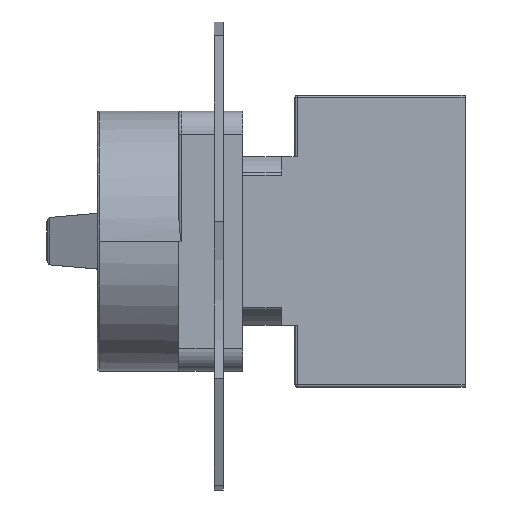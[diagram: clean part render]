
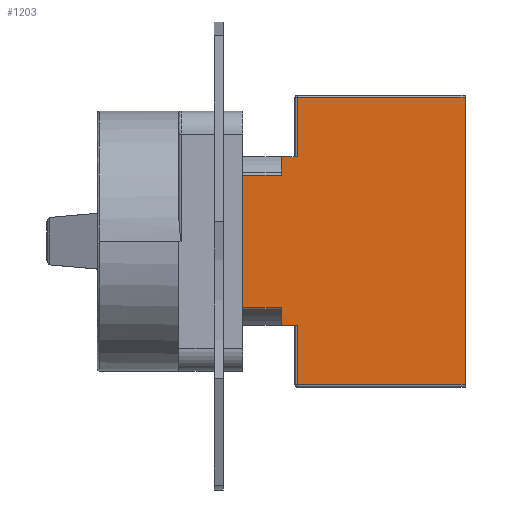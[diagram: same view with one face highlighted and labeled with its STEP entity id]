
A CAD part, left-side view. The second image highlights one B-rep face of the part: STEP entity #1203.
In plain terms, the highlighted planar face has unit normal (-1, 0, 0).
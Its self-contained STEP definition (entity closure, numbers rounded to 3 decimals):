
#200 = LINE ( 'NONE', #5899, #1472 ) ;
#263 = ORIENTED_EDGE ( 'NONE', *, *, #4396, .T. ) ;
#421 = DIRECTION ( 'NONE',  ( 0., 0., -1. ) ) ;
#485 = CARTESIAN_POINT ( 'NONE',  ( -24., 36.8, 0. ) ) ;
#789 = LINE ( 'NONE', #2984, #2844 ) ;
#853 = VECTOR ( 'NONE', #4234, 1000. ) ;
#899 = DIRECTION ( 'NONE',  ( 0., 0., -1. ) ) ;
#929 = CARTESIAN_POINT ( 'NONE',  ( -24., 40.3, 0. ) ) ;
#981 = CARTESIAN_POINT ( 'NONE',  ( -24., 36.8, 0. ) ) ;
#1169 = CARTESIAN_POINT ( 'NONE',  ( -24., 36.8, -18.5 ) ) ;
#1171 = VERTEX_POINT ( 'NONE', #1789 ) ;
#1187 = CARTESIAN_POINT ( 'NONE',  ( -24., 0., 31.5 ) ) ;
#1203 = ADVANCED_FACE ( 'NONE', ( #1478 ), #1685, .T. ) ;
#1257 = VERTEX_POINT ( 'NONE', #1187 ) ;
#1314 = LINE ( 'NONE', #485, #3484 ) ;
#1336 = AXIS2_PLACEMENT_3D ( 'NONE', #1680, #4373, #3976 ) ;
#1378 = CARTESIAN_POINT ( 'NONE',  ( -24., 40.3, -18.5 ) ) ;
#1408 = EDGE_CURVE ( 'NONE', #5795, #4370, #1314, .T. ) ;
#1464 = ORIENTED_EDGE ( 'NONE', *, *, #3839, .T. ) ;
#1472 = VECTOR ( 'NONE', #5671, 1000. ) ;
#1478 = FACE_OUTER_BOUND ( 'NONE', #5173, .T. ) ;
#1505 = CARTESIAN_POINT ( 'NONE',  ( -24., 36.8, 18.5 ) ) ;
#1645 = ORIENTED_EDGE ( 'NONE', *, *, #1408, .T. ) ;
#1680 = CARTESIAN_POINT ( 'NONE',  ( -24., 23.024, 0. ) ) ;
#1685 = PLANE ( 'NONE',  #1336 ) ;
#1698 = DIRECTION ( 'NONE',  ( 0., -1., 0. ) ) ;
#1752 = CARTESIAN_POINT ( 'NONE',  ( -24., 23.024, -31.5 ) ) ;
#1763 = EDGE_CURVE ( 'NONE', #2310, #3020, #5042, .T. ) ;
#1789 = CARTESIAN_POINT ( 'NONE',  ( -24., 0., -31.5 ) ) ;
#2006 = EDGE_CURVE ( 'NONE', #3020, #3016, #5576, .T. ) ;
#2008 = VECTOR ( 'NONE', #6217, 1000. ) ;
#2144 = DIRECTION ( 'NONE',  ( 0., 1., 0. ) ) ;
#2185 = EDGE_CURVE ( 'NONE', #5795, #2427, #789, .T. ) ;
#2197 = CARTESIAN_POINT ( 'NONE',  ( -24., 40.3, 14.5 ) ) ;
#2264 = VECTOR ( 'NONE', #2144, 1000. ) ;
#2267 = LINE ( 'NONE', #6320, #5833 ) ;
#2310 = VERTEX_POINT ( 'NONE', #2197 ) ;
#2344 = CARTESIAN_POINT ( 'NONE',  ( -24., 23.024, 31.5 ) ) ;
#2372 = CARTESIAN_POINT ( 'NONE',  ( -24., 36.8, 31.5 ) ) ;
#2418 = CARTESIAN_POINT ( 'NONE',  ( -24., 40.3, 0. ) ) ;
#2427 = VERTEX_POINT ( 'NONE', #1378 ) ;
#2502 = DIRECTION ( 'NONE',  ( 0., 0., -1. ) ) ;
#2509 = VECTOR ( 'NONE', #5208, 1000. ) ;
#2612 = CARTESIAN_POINT ( 'NONE',  ( -24., 40.3, -14.5 ) ) ;
#2624 = ORIENTED_EDGE ( 'NONE', *, *, #3927, .T. ) ;
#2804 = DIRECTION ( 'NONE',  ( 0., 0., 1. ) ) ;
#2808 = CARTESIAN_POINT ( 'NONE',  ( -24., 0., 0. ) ) ;
#2844 = VECTOR ( 'NONE', #2883, 1000. ) ;
#2883 = DIRECTION ( 'NONE',  ( 0., 1., 0. ) ) ;
#2984 = CARTESIAN_POINT ( 'NONE',  ( -24., 37.3, -18.5 ) ) ;
#3016 = VERTEX_POINT ( 'NONE', #5806 ) ;
#3020 = VERTEX_POINT ( 'NONE', #5760 ) ;
#3045 = VERTEX_POINT ( 'NONE', #5530 ) ;
#3054 = ORIENTED_EDGE ( 'NONE', *, *, #4905, .T. ) ;
#3058 = CARTESIAN_POINT ( 'NONE',  ( -24., 36.8, -31.5 ) ) ;
#3094 = LINE ( 'NONE', #2344, #2264 ) ;
#3107 = ORIENTED_EDGE ( 'NONE', *, *, #4526, .T. ) ;
#3212 = ORIENTED_EDGE ( 'NONE', *, *, #2185, .F. ) ;
#3484 = VECTOR ( 'NONE', #421, 1000. ) ;
#3518 = VERTEX_POINT ( 'NONE', #2372 ) ;
#3664 = VERTEX_POINT ( 'NONE', #1505 ) ;
#3710 = EDGE_CURVE ( 'NONE', #3518, #3664, #5126, .T. ) ;
#3749 = ORIENTED_EDGE ( 'NONE', *, *, #4452, .T. ) ;
#3839 = EDGE_CURVE ( 'NONE', #3016, #4420, #2267, .T. ) ;
#3900 = LINE ( 'NONE', #929, #2509 ) ;
#3927 = EDGE_CURVE ( 'NONE', #1257, #3518, #3094, .T. ) ;
#3976 = DIRECTION ( 'NONE',  ( 0., 0., 1. ) ) ;
#4156 = VECTOR ( 'NONE', #1698, 1000. ) ;
#4234 = DIRECTION ( 'NONE',  ( 0., 0., -1. ) ) ;
#4319 = CARTESIAN_POINT ( 'NONE',  ( -24., 48.8, 0. ) ) ;
#4370 = VERTEX_POINT ( 'NONE', #3058 ) ;
#4373 = DIRECTION ( 'NONE',  ( -1., 0., 0. ) ) ;
#4383 = LINE ( 'NONE', #1752, #4156 ) ;
#4396 = EDGE_CURVE ( 'NONE', #1171, #1257, #5239, .T. ) ;
#4420 = VERTEX_POINT ( 'NONE', #2612 ) ;
#4452 = EDGE_CURVE ( 'NONE', #4420, #2427, #5150, .T. ) ;
#4524 = ORIENTED_EDGE ( 'NONE', *, *, #4988, .F. ) ;
#4526 = EDGE_CURVE ( 'NONE', #4370, #1171, #4383, .T. ) ;
#4841 = VECTOR ( 'NONE', #2502, 1000. ) ;
#4905 = EDGE_CURVE ( 'NONE', #3045, #2310, #3900, .T. ) ;
#4988 = EDGE_CURVE ( 'NONE', #3045, #3664, #200, .T. ) ;
#5030 = VECTOR ( 'NONE', #899, 1000. ) ;
#5042 = LINE ( 'NONE', #6328, #2008 ) ;
#5126 = LINE ( 'NONE', #981, #5030 ) ;
#5150 = LINE ( 'NONE', #2418, #4841 ) ;
#5173 = EDGE_LOOP ( 'NONE', ( #5293, #6417, #1464, #3749, #3212, #1645, #3107, #263, #2624, #5286, #4524, #3054 ) ) ;
#5208 = DIRECTION ( 'NONE',  ( 0., 0., -1. ) ) ;
#5239 = LINE ( 'NONE', #2808, #5405 ) ;
#5286 = ORIENTED_EDGE ( 'NONE', *, *, #3710, .T. ) ;
#5293 = ORIENTED_EDGE ( 'NONE', *, *, #1763, .T. ) ;
#5405 = VECTOR ( 'NONE', #2804, 1000. ) ;
#5530 = CARTESIAN_POINT ( 'NONE',  ( -24., 40.3, 18.5 ) ) ;
#5576 = LINE ( 'NONE', #4319, #853 ) ;
#5671 = DIRECTION ( 'NONE',  ( 0., -1., 0. ) ) ;
#5760 = CARTESIAN_POINT ( 'NONE',  ( -24., 48.8, 14.5 ) ) ;
#5795 = VERTEX_POINT ( 'NONE', #1169 ) ;
#5806 = CARTESIAN_POINT ( 'NONE',  ( -24., 48.8, -14.5 ) ) ;
#5833 = VECTOR ( 'NONE', #6256, 1000. ) ;
#5899 = CARTESIAN_POINT ( 'NONE',  ( -24., 48.8, 18.5 ) ) ;
#6217 = DIRECTION ( 'NONE',  ( 0., 1., 0. ) ) ;
#6256 = DIRECTION ( 'NONE',  ( 0., -1., 0. ) ) ;
#6320 = CARTESIAN_POINT ( 'NONE',  ( -24., 23.024, -14.5 ) ) ;
#6328 = CARTESIAN_POINT ( 'NONE',  ( -24., 23.024, 14.5 ) ) ;
#6417 = ORIENTED_EDGE ( 'NONE', *, *, #2006, .T. ) ;
